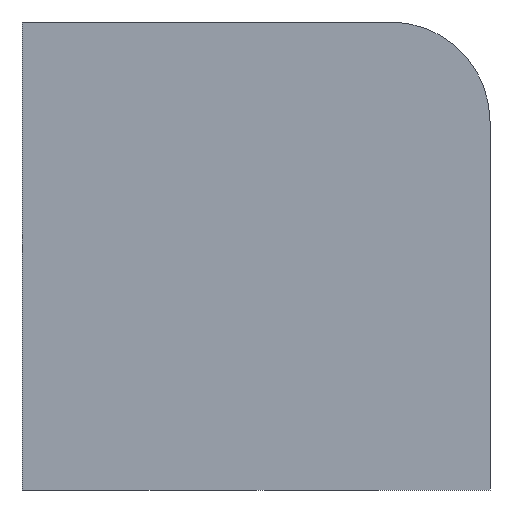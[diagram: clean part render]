
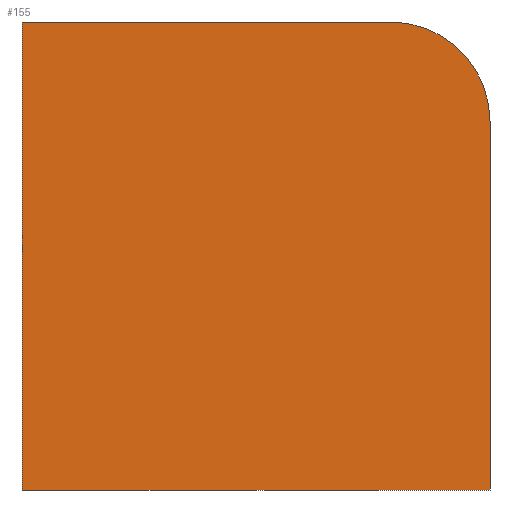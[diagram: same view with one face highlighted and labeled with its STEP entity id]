
A CAD part, left-side view. The second image highlights one B-rep face of the part: STEP entity #155.
In plain terms, the highlighted planar face has unit normal (-1, 0, 0).
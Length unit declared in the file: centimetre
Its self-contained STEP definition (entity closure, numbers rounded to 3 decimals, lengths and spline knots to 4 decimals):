
#11 = CARTESIAN_POINT ( 'NONE',  ( 0., 1000., 1000. ) ) ;
#19 = ORIENTED_EDGE ( 'NONE', *, *, #117, .T. ) ;
#21 = EDGE_CURVE ( 'NONE', #124, #287, #292, .T. ) ;
#29 = LINE ( 'NONE', #318, #109 ) ;
#31 = VECTOR ( 'NONE', #234, 100. ) ;
#39 = CARTESIAN_POINT ( 'NONE',  ( 0., 0., 1000. ) ) ;
#67 = DIRECTION ( 'NONE',  ( 0., 0., -1. ) ) ;
#68 = EDGE_CURVE ( 'NONE', #124, #375, #89, .T. ) ;
#89 = LINE ( 'NONE', #39, #31 ) ;
#94 = FACE_OUTER_BOUND ( 'NONE', #231, .T. ) ;
#95 = LINE ( 'NONE', #11, #205 ) ;
#109 = VECTOR ( 'NONE', #221, 100. ) ;
#117 = EDGE_CURVE ( 'NONE', #312, #257, #95, .T. ) ;
#124 = VERTEX_POINT ( 'NONE', #175 ) ;
#133 = ORIENTED_EDGE ( 'NONE', *, *, #326, .F. ) ;
#139 = DIRECTION ( 'NONE',  ( 0., 0., -1. ) ) ;
#150 = CARTESIAN_POINT ( 'NONE',  ( 0., 1000., 1000. ) ) ;
#155 = ADVANCED_FACE ( 'NONE', ( #94 ), #239, .F. ) ;
#156 = VECTOR ( 'NONE', #284, 100. ) ;
#168 = DIRECTION ( 'NONE',  ( -1., 0., 0. ) ) ;
#175 = CARTESIAN_POINT ( 'NONE',  ( 0., 0., 787.0979 ) ) ;
#179 = DIRECTION ( 'NONE',  ( 1., 0., 0. ) ) ;
#186 = LINE ( 'NONE', #371, #156 ) ;
#191 = CARTESIAN_POINT ( 'NONE',  ( 0., 212.9021, 787.0979 ) ) ;
#192 = CARTESIAN_POINT ( 'NONE',  ( 0., 1000., 1000. ) ) ;
#203 = DIRECTION ( 'NONE',  ( 0., 0., -1. ) ) ;
#205 = VECTOR ( 'NONE', #203, 100. ) ;
#221 = DIRECTION ( 'NONE',  ( 0., -1., 0. ) ) ;
#230 = CARTESIAN_POINT ( 'NONE',  ( 0., 1000., 0. ) ) ;
#231 = EDGE_LOOP ( 'NONE', ( #285, #374, #133, #19, #354 ) ) ;
#234 = DIRECTION ( 'NONE',  ( 0., 0., -1. ) ) ;
#239 = PLANE ( 'NONE',  #334 ) ;
#244 = CARTESIAN_POINT ( 'NONE',  ( 0., 0., 0. ) ) ;
#257 = VERTEX_POINT ( 'NONE', #230 ) ;
#268 = AXIS2_PLACEMENT_3D ( 'NONE', #191, #168, #139 ) ;
#284 = DIRECTION ( 'NONE',  ( 0., -1., 0. ) ) ;
#285 = ORIENTED_EDGE ( 'NONE', *, *, #68, .F. ) ;
#287 = VERTEX_POINT ( 'NONE', #339 ) ;
#292 = CIRCLE ( 'NONE', #268, 212.9021 ) ;
#312 = VERTEX_POINT ( 'NONE', #192 ) ;
#318 = CARTESIAN_POINT ( 'NONE',  ( 0., 1000., 1000. ) ) ;
#326 = EDGE_CURVE ( 'NONE', #312, #287, #29, .T. ) ;
#334 = AXIS2_PLACEMENT_3D ( 'NONE', #150, #179, #67 ) ;
#339 = CARTESIAN_POINT ( 'NONE',  ( 0., 212.9021, 1000. ) ) ;
#354 = ORIENTED_EDGE ( 'NONE', *, *, #358, .T. ) ;
#358 = EDGE_CURVE ( 'NONE', #257, #375, #186, .T. ) ;
#371 = CARTESIAN_POINT ( 'NONE',  ( 0., 1000., 0. ) ) ;
#374 = ORIENTED_EDGE ( 'NONE', *, *, #21, .T. ) ;
#375 = VERTEX_POINT ( 'NONE', #244 ) ;
